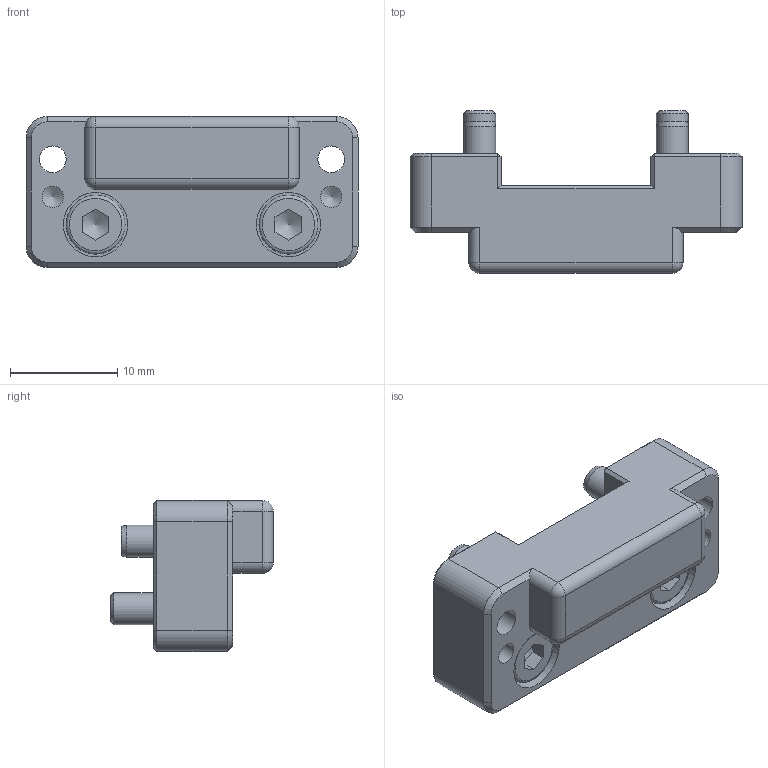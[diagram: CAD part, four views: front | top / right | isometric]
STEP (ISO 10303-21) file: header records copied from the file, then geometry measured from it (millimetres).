
FILE_DESCRIPTION(/* description */ (''),/* implementation_level */ '2;1');
FILE_NAME(/* name */ 'ZG-AP-SEK100-SHS050-U.stp',/* time_stamp */ '2024-11-13T16:04:50+01:00',/* author */ ('ysplieth'),/* organization */ (''),/* preprocessor_version */ 'ST-DEVELOPER v20',/* originating_system */ 'Autodesk Inventor 2024',/* authorisation */ '');
FILE_SCHEMA (('AUTOMOTIVE_DESIGN { 1 0 10303 214 3 1 1 }'));
Length unit declared in the file: millimetre
Products named in the file (1): Bauteil12
Bounding box: 31 x 15.2 x 14.1 mm (x, y, z)
Volume: 3015.2 mm3; surface area: 2375.5 mm2
Topology: 1 solids, 3 shells, 117 faces, 262 edges, 157 vertices
Faces by surface type: plane 61, cylinder 28, cone 20, torus 4, sphere 4
Full cylindrical faces by diameter (mm): 2 x2, 2.5 x2, 3 x6, 3.4 x2, 5.5 x2, 6 x2
Entity records: 3348 total; most frequent: DIRECTION 567, CARTESIAN_POINT 559, ORIENTED_EDGE 512, EDGE_CURVE 256, AXIS2_PLACEMENT_3D 207, VERTEX_POINT 157, LINE 153, VECTOR 153
